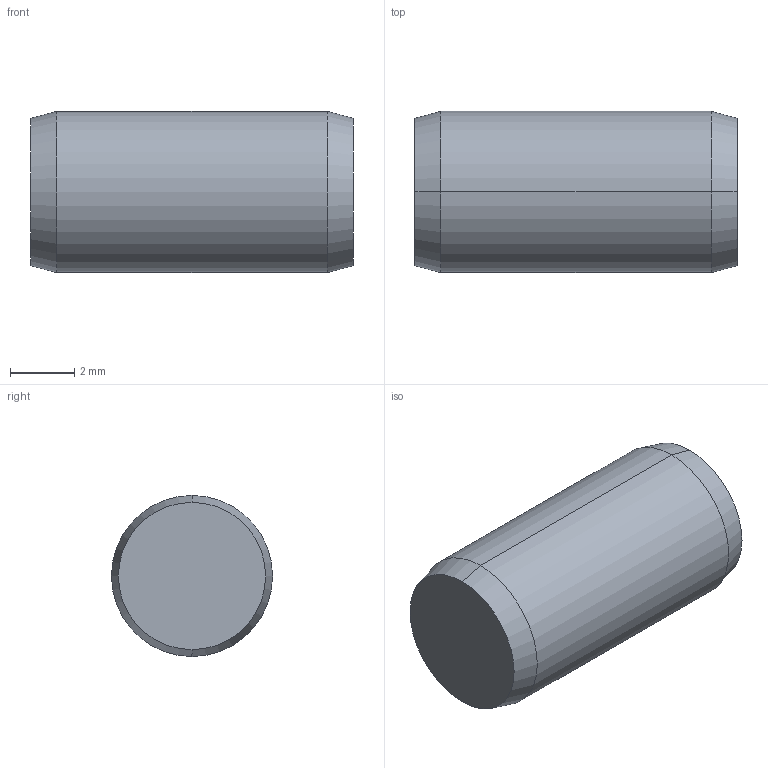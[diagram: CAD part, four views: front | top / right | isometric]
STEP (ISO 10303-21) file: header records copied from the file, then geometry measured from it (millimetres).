
FILE_DESCRIPTION (( 'STEP AP203' ), '1' );
FILE_NAME ('P1206.050-010.step', '2017-06-14T08:14:15', ( 'User' ), ( '' ), 'SwSTEP 2.0', 'SolidWorks 2009', '' );
FILE_SCHEMA (( 'CONFIG_CONTROL_DESIGN' ));
Length unit declared in the file: millimetre
Products named in the file (1): P1206.050-010
Bounding box: 10 x 5 x 5 mm (x, y, z)
Volume: 193.7 mm3; surface area: 189.7 mm2
Topology: 1 solids, 1 shells, 8 faces, 14 edges, 8 vertices
Faces by surface type: cone 4, cylinder 2, plane 2
Entity records: 271 total; most frequent: DIRECTION 40, CARTESIAN_POINT 31, ORIENTED_EDGE 28, AXIS2_PLACEMENT_3D 17, EDGE_CURVE 14, CIRCLE 8, FACE_OUTER_BOUND 8, ADVANCED_FACE 8
